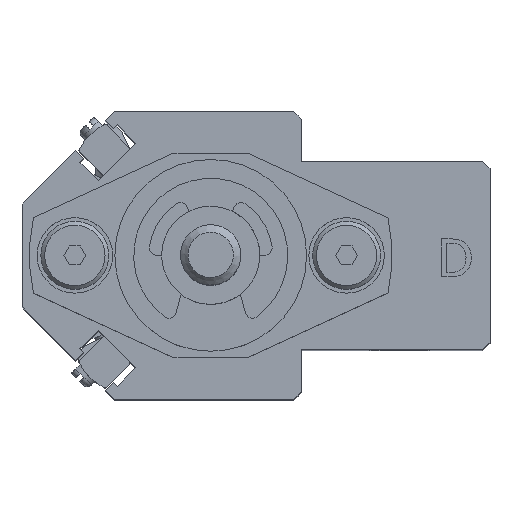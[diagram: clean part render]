
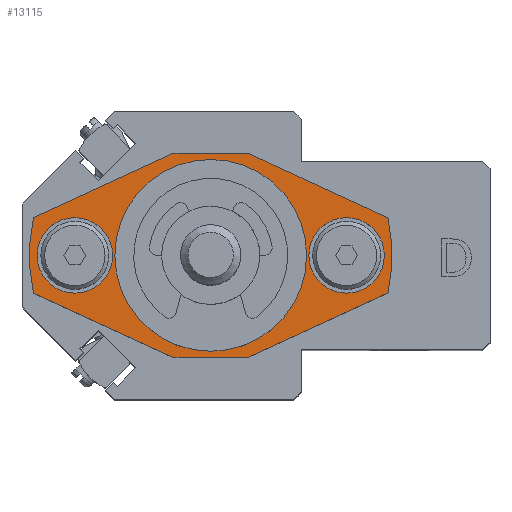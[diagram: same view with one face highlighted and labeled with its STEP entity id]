
A CAD part, top view. The second image highlights one B-rep face of the part: STEP entity #13115.
In plain terms, the highlighted planar face has unit normal (0, 0, 1).
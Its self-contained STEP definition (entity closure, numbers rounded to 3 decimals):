
#367=FACE_BOUND('',#4792,.T.);
#368=FACE_BOUND('',#4793,.T.);
#369=FACE_BOUND('',#4794,.T.);
#1547=LINE('',#21553,#2922);
#1554=LINE('',#21570,#2929);
#1555=LINE('',#21573,#2930);
#1556=LINE('',#21574,#2931);
#1557=LINE('',#21576,#2932);
#1558=LINE('',#21577,#2933);
#2922=VECTOR('',#17486,10.);
#2929=VECTOR('',#17501,10.);
#2930=VECTOR('',#17504,10.);
#2931=VECTOR('',#17505,10.);
#2932=VECTOR('',#17506,10.);
#2933=VECTOR('',#17507,10.);
#3397=CIRCLE('',#14382,10.5);
#3398=CIRCLE('',#14383,10.5);
#3405=CIRCLE('',#14394,24.);
#3407=CIRCLE('',#14397,24.);
#3410=CIRCLE('',#14404,5.);
#3411=CIRCLE('',#14405,5.);
#3412=CIRCLE('',#14406,5.);
#3413=CIRCLE('',#14407,5.);
#4095=FACE_OUTER_BOUND('',#4791,.T.);
#4791=EDGE_LOOP('',(#11024,#11025,#11026,#11027,#11028,#11029,#11030,#11031));
#4792=EDGE_LOOP('',(#11032,#11033));
#4793=EDGE_LOOP('',(#11034,#11035));
#4794=EDGE_LOOP('',(#11036,#11037));
#5974=VERTEX_POINT('',#21511);
#5975=VERTEX_POINT('',#21513);
#5983=VERTEX_POINT('',#21534);
#5984=VERTEX_POINT('',#21536);
#5987=VERTEX_POINT('',#21543);
#5988=VERTEX_POINT('',#21545);
#5990=VERTEX_POINT('',#21551);
#5996=VERTEX_POINT('',#21568);
#5997=VERTEX_POINT('',#21572);
#5998=VERTEX_POINT('',#21575);
#5999=VERTEX_POINT('',#21578);
#6000=VERTEX_POINT('',#21579);
#6001=VERTEX_POINT('',#21582);
#6002=VERTEX_POINT('',#21583);
#7710=EDGE_CURVE('',#5975,#5974,#3397,.T.);
#7711=EDGE_CURVE('',#5974,#5975,#3398,.T.);
#7720=EDGE_CURVE('',#5984,#5983,#3405,.T.);
#7724=EDGE_CURVE('',#5988,#5987,#3407,.T.);
#7728=EDGE_CURVE('',#5983,#5990,#1547,.T.);
#7737=EDGE_CURVE('',#5987,#5996,#1554,.T.);
#7738=EDGE_CURVE('',#5990,#5997,#1555,.T.);
#7739=EDGE_CURVE('',#5997,#5988,#1556,.T.);
#7740=EDGE_CURVE('',#5996,#5998,#1557,.T.);
#7741=EDGE_CURVE('',#5998,#5984,#1558,.T.);
#7742=EDGE_CURVE('',#5999,#6000,#3410,.T.);
#7743=EDGE_CURVE('',#6000,#5999,#3411,.T.);
#7744=EDGE_CURVE('',#6001,#6002,#3412,.T.);
#7745=EDGE_CURVE('',#6002,#6001,#3413,.T.);
#11024=ORIENTED_EDGE('',*,*,#7720,.T.);
#11025=ORIENTED_EDGE('',*,*,#7728,.T.);
#11026=ORIENTED_EDGE('',*,*,#7738,.T.);
#11027=ORIENTED_EDGE('',*,*,#7739,.T.);
#11028=ORIENTED_EDGE('',*,*,#7724,.T.);
#11029=ORIENTED_EDGE('',*,*,#7737,.T.);
#11030=ORIENTED_EDGE('',*,*,#7740,.T.);
#11031=ORIENTED_EDGE('',*,*,#7741,.T.);
#11032=ORIENTED_EDGE('',*,*,#7710,.T.);
#11033=ORIENTED_EDGE('',*,*,#7711,.T.);
#11034=ORIENTED_EDGE('',*,*,#7742,.T.);
#11035=ORIENTED_EDGE('',*,*,#7743,.T.);
#11036=ORIENTED_EDGE('',*,*,#7744,.T.);
#11037=ORIENTED_EDGE('',*,*,#7745,.T.);
#12315=PLANE('',#14403);
#13115=ADVANCED_FACE('',(#4095,#367,#368,#369),#12315,.T.);
#14382=AXIS2_PLACEMENT_3D('',#21514,#17445,#17446);
#14383=AXIS2_PLACEMENT_3D('',#21515,#17447,#17448);
#14394=AXIS2_PLACEMENT_3D('',#21537,#17471,#17472);
#14397=AXIS2_PLACEMENT_3D('',#21546,#17479,#17480);
#14403=AXIS2_PLACEMENT_3D('',#21571,#17502,#17503);
#14404=AXIS2_PLACEMENT_3D('',#21580,#17508,#17509);
#14405=AXIS2_PLACEMENT_3D('',#21581,#17510,#17511);
#14406=AXIS2_PLACEMENT_3D('',#21584,#17512,#17513);
#14407=AXIS2_PLACEMENT_3D('',#21585,#17514,#17515);
#17445=DIRECTION('center_axis',(0.,0.,-1.));
#17446=DIRECTION('ref_axis',(1.,0.,0.));
#17447=DIRECTION('center_axis',(0.,0.,-1.));
#17448=DIRECTION('ref_axis',(1.,0.,0.));
#17471=DIRECTION('center_axis',(0.,0.,1.));
#17472=DIRECTION('ref_axis',(0.978,-0.208,0.));
#17479=DIRECTION('center_axis',(0.,0.,1.));
#17480=DIRECTION('ref_axis',(-0.978,0.208,0.));
#17486=DIRECTION('',(0.908,-0.418,0.));
#17501=DIRECTION('',(-0.908,0.418,0.));
#17502=DIRECTION('center_axis',(0.,0.,1.));
#17503=DIRECTION('ref_axis',(1.,0.,0.));
#17504=DIRECTION('',(1.,0.,0.));
#17505=DIRECTION('',(0.908,0.418,0.));
#17506=DIRECTION('',(-1.,0.,0.));
#17507=DIRECTION('',(-0.908,-0.418,0.));
#17508=DIRECTION('center_axis',(0.,0.,-1.));
#17509=DIRECTION('ref_axis',(1.,0.,0.));
#17510=DIRECTION('center_axis',(0.,0.,-1.));
#17511=DIRECTION('ref_axis',(1.,0.,0.));
#17512=DIRECTION('center_axis',(0.,0.,-1.));
#17513=DIRECTION('ref_axis',(1.,0.,0.));
#17514=DIRECTION('center_axis',(0.,0.,-1.));
#17515=DIRECTION('ref_axis',(1.,0.,0.));
#21511=CARTESIAN_POINT('',(-10.5,0.,6.));
#21513=CARTESIAN_POINT('',(10.5,0.,6.));
#21514=CARTESIAN_POINT('Origin',(0.,0.,6.));
#21515=CARTESIAN_POINT('Origin',(0.,0.,6.));
#21534=CARTESIAN_POINT('',(-23.473,-5.001,6.));
#21536=CARTESIAN_POINT('',(-23.473,5.001,6.));
#21537=CARTESIAN_POINT('Origin',(0.,0.,6.));
#21543=CARTESIAN_POINT('',(23.473,5.001,6.));
#21545=CARTESIAN_POINT('',(23.473,-5.001,6.));
#21546=CARTESIAN_POINT('Origin',(0.,0.,6.));
#21551=CARTESIAN_POINT('',(-5.,-13.5,6.));
#21553=CARTESIAN_POINT('',(-15.7,-8.578,6.));
#21568=CARTESIAN_POINT('',(5.,13.5,6.));
#21570=CARTESIAN_POINT('',(15.7,8.578,6.));
#21571=CARTESIAN_POINT('Origin',(0.,0.,6.));
#21572=CARTESIAN_POINT('',(5.,-13.5,6.));
#21573=CARTESIAN_POINT('',(25.4,-13.5,6.));
#21574=CARTESIAN_POINT('',(15.7,-8.578,6.));
#21575=CARTESIAN_POINT('',(-5.,13.5,6.));
#21576=CARTESIAN_POINT('',(-25.4,13.5,6.));
#21577=CARTESIAN_POINT('',(-15.7,8.578,6.));
#21578=CARTESIAN_POINT('',(-13.,0.,6.));
#21579=CARTESIAN_POINT('',(-23.,0.,6.));
#21580=CARTESIAN_POINT('Origin',(-18.,0.,6.));
#21581=CARTESIAN_POINT('Origin',(-18.,0.,6.));
#21582=CARTESIAN_POINT('',(23.,0.,6.));
#21583=CARTESIAN_POINT('',(13.,0.,6.));
#21584=CARTESIAN_POINT('Origin',(18.,0.,6.));
#21585=CARTESIAN_POINT('Origin',(18.,0.,6.));
